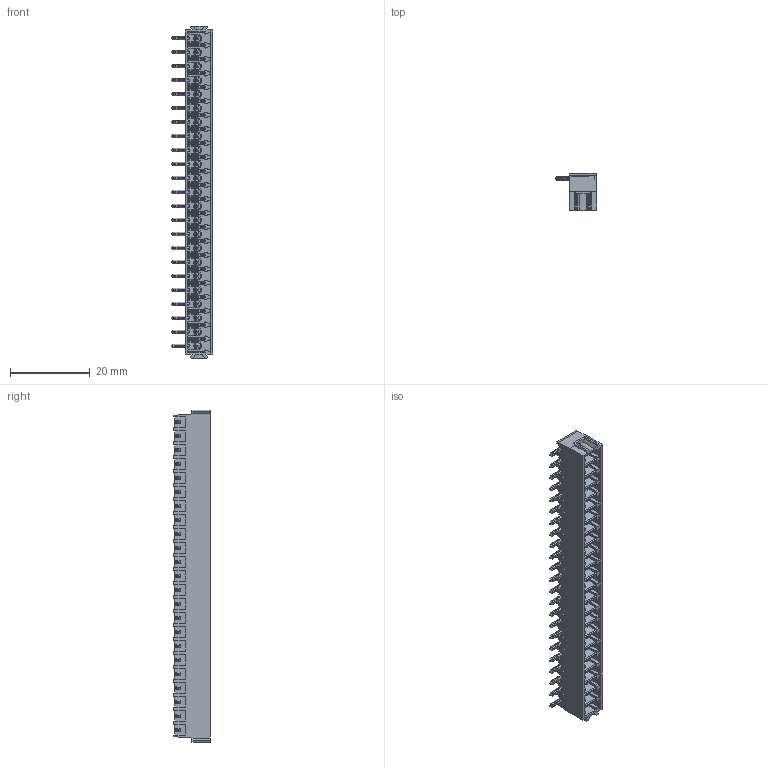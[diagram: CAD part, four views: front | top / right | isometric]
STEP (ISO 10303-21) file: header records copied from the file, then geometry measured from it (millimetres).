
FILE_DESCRIPTION (( 'STEP AP214' ), '1' );
FILE_NAME ('110-M-211-23.STEP', '2007-11-02T03:19:12', ( ' ' ), ( '' ), 'SwSTEP 2.0', 'SolidWorks 2007', '' );
FILE_SCHEMA (( 'AUTOMOTIVE_DESIGN' ));
Products named in the file (1): 110-M-211-23
Bounding box: 10.5 x 9.2 x 83.1 mm (x, y, z)
Volume: 2155.8 mm3; surface area: 7500.9 mm2
Topology: 1 solids, 1 shells, 4382 faces, 12358 edges, 7943 vertices
Faces by surface type: plane 2993, cylinder 1054, bspline 157, cone 153, sphere 25
Entity records: 151448 total; most frequent: CARTESIAN_POINT 49852, ORIENTED_EDGE 24646, DIRECTION 15795, EDGE_CURVE 12323, VERTEX_POINT 7943, VECTOR 6621, LINE 6621, B_SPLINE_CURVE_WITH_KNOTS 5209
